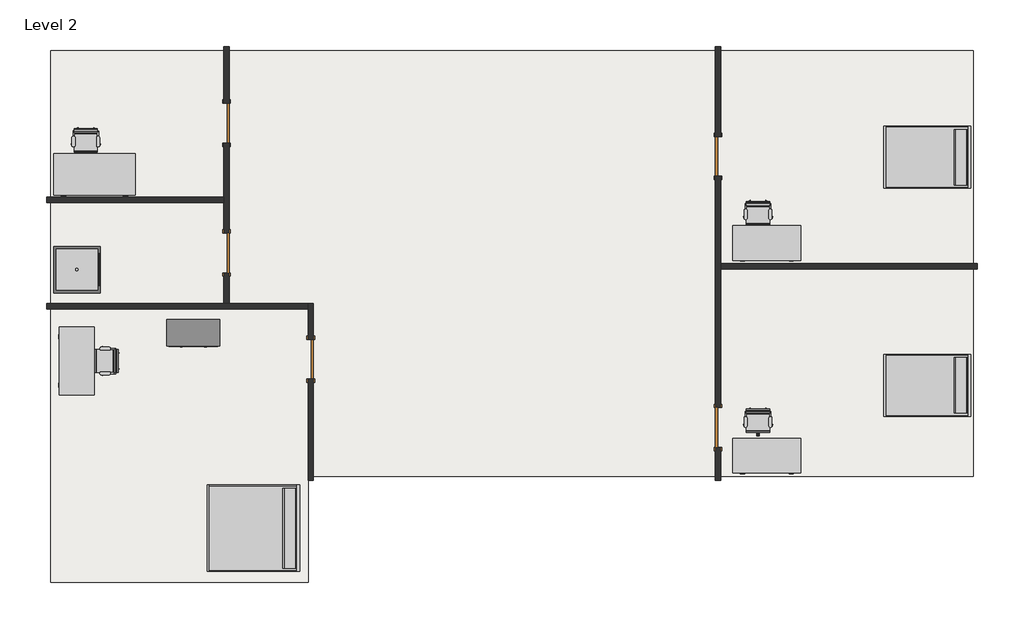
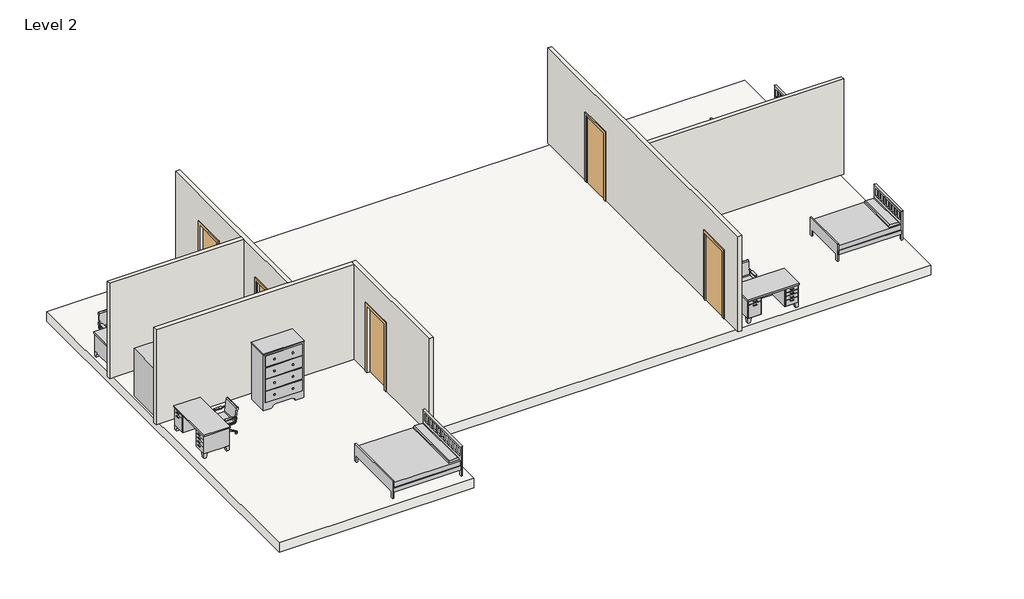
# One storey, incomplete: 12 furniture elements, 6 walls, 5 doors, 1 flow terminal, 1 slab.
"""IFC4 building model written with IfcOpenShell, lengths in millimetres."""

from ifc_helpers import new_model, si_unit, frame, origin, place, context, project, spatial, polyline, outline, extrude, faceted_brep, transform, mapped, element, save
from components import door_88503111, flow_terminal_00a5fde1, furniture_096e7f55, furniture_29cd36cd, chair_task_arms_chair_task_arms_fa5a08ef, furniture_013ab306, furniture_95783df2, furniture_9fa109b2

model = new_model("IFC4")

# Units and contexts
model_context = context("Model", 3, world=origin())
ifc_project = project(units=[si_unit("LENGTHUNIT", "METRE", prefix="MILLI")], contexts=[model_context])

# Site, building, storey
site = spatial("IfcSite", under=ifc_project)
building = spatial("IfcBuilding", under=site)
storey = spatial("IfcBuildingStorey", under=building, Name="Level 2", Elevation=3048.0)

# Doors
placement = place(None, origin())
door_shape = door_88503111(model_context)
element("IfcDoor", 1, ObjectType="Single-Flush : 36\" x 84\"", at=placement, inside=storey, context=model_context, shape_type="MappedRepresentation", body=[
    mapped(door_shape, transform((-10473.5848837, 11956.8240656, 3048.0), x_axis=(0.0, -1.0, 0.0), y_axis=(1.0, 0.0, 0.0), z_axis=(0.0, 0.0, 1.0))),
])
element("IfcDoor", 2, ObjectType="Single-Flush : 36\" x 84\"", at=placement, inside=storey, context=model_context, shape_type="MappedRepresentation", body=[
    mapped(door_shape, transform((-10473.5848837, 8979.4678156, 3048.0), x_axis=(0.0, -1.0, 0.0), y_axis=(1.0, 0.0, 0.0), z_axis=(0.0, 0.0, 1.0))),
])
element("IfcDoor", 3, ObjectType="Single-Flush : 36\" x 84\"", at=placement, inside=storey, context=model_context, shape_type="MappedRepresentation", body=[
    mapped(door_shape, transform((-8543.1848837, 6541.0678156, 3048.0), x_axis=(0.0, -1.0, 0.0), y_axis=(1.0, 0.0, 0.0), z_axis=(0.0, 0.0, 1.0))),
])
element("IfcDoor", 4, ObjectType="Single-Flush : 36\" x 84\"", at=placement, inside=storey, context=model_context, shape_type="MappedRepresentation", body=[
    mapped(door_shape, transform((792.9026163, 4977.3803156, 3048.0), x_axis=(0.0, 1.0, 0.0), y_axis=(-1.0, 0.0, 0.0), z_axis=(0.0, 0.0, 1.0))),
])
element("IfcDoor", 5, ObjectType="Single-Flush : 36\" x 84\"", at=placement, inside=storey, context=model_context, shape_type="MappedRepresentation", body=[
    mapped(door_shape, transform((792.9026163, 11194.8240656, 3048.0), x_axis=(0.0, 1.0, 0.0), y_axis=(-1.0, 0.0, 0.0), z_axis=(0.0, 0.0, 1.0))),
])

# Flow terminal
flow_terminal_shape = flow_terminal_00a5fde1(model_context)
element("IfcFlowTerminal", 6, ObjectType="Shower Stall - Rectangular : 42\"x42\" - Private", at=placement, inside=storey, context=model_context, shape_type="MappedRepresentation", body=[
    mapped(flow_terminal_shape, transform((-14435.9848837, 8065.0678156, 3048.0), x_axis=(1.0, 0.0, 0.0), y_axis=(0.0, 1.0, 0.0), z_axis=(0.0, 0.0, 1.0))),
])

# Furniture
furniture_shape = furniture_096e7f55(model_context)
element("IfcFurniture", 7, ObjectType="Bed-Shaker : Double 56\" x 78\"", at=placement, inside=storey, context=model_context, shape_type="MappedRepresentation", body=[
    mapped(furniture_shape, transform((6572.9901163, 11155.9303156, 3048.0), x_axis=(0.0, -1.0, 0.0), y_axis=(1.0, 0.0, 0.0), z_axis=(0.0, 0.0, 1.0))),
])
element("IfcFurniture", 8, ObjectType="Bed-Shaker : Double 56\" x 78\"", at=placement, inside=storey, context=model_context, shape_type="MappedRepresentation", body=[
    mapped(furniture_shape, transform((6572.9901163, 5923.5303156, 3048.0), x_axis=(0.0, -1.0, 0.0), y_axis=(1.0, 0.0, 0.0), z_axis=(0.0, 0.0, 1.0))),
])
furniture_2_shape = furniture_29cd36cd(model_context)
element("IfcFurniture", 9, ObjectType="Bed-Shaker : King 78\" x 83\"", at=placement, inside=storey, context=model_context, shape_type="MappedRepresentation", body=[
    mapped(furniture_2_shape, transform((-8808.2973837, 2646.9303156, 3048.0), x_axis=(0.0, -1.0, 0.0), y_axis=(1.0, 0.0, 0.0), z_axis=(0.0, 0.0, 1.0))),
])
chair_task_arms_chair_task_arms_shape = chair_task_arms_chair_task_arms_fa5a08ef(model_context)
element("IfcFurniture", 10, ObjectType="Chair-Task Arms : Chair-Task Arms", at=placement, inside=storey, context=model_context, shape_type="MappedRepresentation", body=[
    mapped(chair_task_arms_chair_task_arms_shape, transform((-13208.9514821, 6360.3894959, 3048.0), x_axis=(0.0, 1.0, 0.0), y_axis=(-1.0, 0.0, 0.0), z_axis=(0.0, 0.0, 1.0))),
])
element("IfcFurniture", 11, ObjectType="Chair-Task Arms : Chair-Task Arms", at=placement, inside=storey, context=model_context, shape_type="MappedRepresentation", body=[
    mapped(chair_task_arms_chair_task_arms_shape, transform((1848.293436, 9912.8137172, 3048.0), x_axis=(-1.0, 0.0, 0.0), y_axis=(0.0, -1.0, 0.0), z_axis=(0.0, 0.0, 1.0))),
])
element("IfcFurniture", 12, ObjectType="Chair-Task Arms : Chair-Task Arms", at=placement, inside=storey, context=model_context, shape_type="MappedRepresentation", body=[
    mapped(chair_task_arms_chair_task_arms_shape, transform((1848.293436, 5148.7262172, 3048.0), x_axis=(-1.0, 0.0, 0.0), y_axis=(0.0, -1.0, 0.0), z_axis=(0.0, 0.0, 1.0))),
])
element("IfcFurniture", 13, ObjectType="Chair-Task Arms : Chair-Task Arms", at=placement, inside=storey, context=model_context, shape_type="MappedRepresentation", body=[
    mapped(chair_task_arms_chair_task_arms_shape, transform((-13558.394064, 11582.1165491, 3048.0), x_axis=(-1.0, 0.0, 0.0), y_axis=(0.0, -1.0, 0.0), z_axis=(0.0, 0.0, 1.0))),
])
furniture_3_shape = furniture_013ab306(model_context)
element("IfcFurniture", 14, ObjectType="Desk : 60\" x 30\"", at=placement, inside=storey, context=model_context, shape_type="MappedRepresentation", body=[
    mapped(furniture_3_shape, transform((1148.5026163, 8827.0678156, 3048.0), x_axis=(1.0, 0.0, 0.0), y_axis=(0.0, 1.0, 0.0), z_axis=(0.0, 0.0, 1.0))),
])
element("IfcFurniture", 15, ObjectType="Desk : 60\" x 30\"", at=placement, inside=storey, context=model_context, shape_type="MappedRepresentation", body=[
    mapped(furniture_3_shape, transform((1148.5026163, 3950.2678156, 3048.0), x_axis=(1.0, 0.0, 0.0), y_axis=(0.0, 1.0, 0.0), z_axis=(0.0, 0.0, 1.0))),
])
element("IfcFurniture", 16, ObjectType="Desk : 60\" x 30\"", at=placement, inside=storey, context=model_context, shape_type="MappedRepresentation", body=[
    mapped(furniture_3_shape, transform((-14283.5848837, 7263.3803156, 3048.0), x_axis=(0.0, -1.0, 0.0), y_axis=(1.0, 0.0, 0.0), z_axis=(0.0, 0.0, 1.0))),
])
furniture_4_shape = furniture_95783df2(model_context)
element("IfcFurniture", 17, ObjectType="Desk : 72\" x 36\"", at=placement, inside=storey, context=model_context, shape_type="MappedRepresentation", body=[
    mapped(furniture_4_shape, transform((-14258.1848837, 10398.6928156, 3048.0), x_axis=(1.0, 0.0, 0.0), y_axis=(0.0, 1.0, 0.0), z_axis=(0.0, 0.0, 1.0))),
])
furniture_5_shape = furniture_9fa109b2(model_context)
element("IfcFurniture", 18, ObjectType="Dresser : 48\" x 72\" x 24\"", at=placement, inside=storey, context=model_context, shape_type="MappedRepresentation", body=[
    mapped(furniture_5_shape, transform((-10966.3916239, 7513.8307697, 3048.0), x_axis=(1.0, 0.0, 0.0), y_axis=(0.0, 1.0, 0.0), z_axis=(0.0, 0.0, 1.0))),
])

# Slab
element("IfcSlab", 19, ObjectType="Generic - 12\"", at=placement, inside=storey, context=model_context, shape_type="SweptSolid", body=[
    extrude(outline(polyline([(-14497.8973837, 1421.3803156), (-14497.8973837, 13613.3803156), (6634.9026163, 13613.3803156), (6634.9026163, 3859.7803156), (-8605.0973837, 3859.7803156), (-8605.0973837, 1421.3803156), (-14497.8973837, 1421.3803156)])), frame((0.0, 0.0, 2743.2), z_axis=(0.0, 0.0, 1.0), x_axis=(1.0, 0.0, 0.0)), (0.0, 0.0, 1.0), 304.8),
])

# Walls
element("IfcWall", 20, ObjectType="Interior - 4 7/8\" Partition (1-hr)", at=placement, inside=storey, context=model_context, shape_type="Brep", body=[
    faceted_brep([(-8481.2723837, 3758.1803156, 3048.0), (-8481.2723837, 6083.8678156, 3048.0), (-8481.2723837, 6083.8678156, 5181.6), (-8481.2723837, 6998.2678156, 5181.6), (-8481.2723837, 6998.2678156, 3048.0), (-8481.2723837, 7822.1803156, 3048.0), (-8481.2723837, 7822.1803156, 6096.0), (-8481.2723837, 3758.1803156, 6096.0), (-8605.0973837, 6083.8678156, 5181.6), (-8605.0973837, 6083.8678156, 3048.0), (-8605.0973837, 3758.1803156, 3048.0), (-8605.0973837, 3758.1803156, 6096.0), (-8605.0973837, 7698.3553156, 6096.0), (-8605.0973837, 7822.1803156, 6096.0), (-8605.0973837, 7822.1803156, 3048.0), (-8605.0973837, 7698.3553156, 3048.0), (-8605.0973837, 6998.2678156, 3048.0), (-8605.0973837, 6998.2678156, 5181.6)], [[[0, 1, 2, 3, 4, 5, 6, 7]], [[8, 9, 10, 11, 12, 13, 14, 15, 16, 17]], [[10, 9, 1, 0]], [[16, 15, 14, 5, 4]], [[7, 6, 13, 12, 11]], [[0, 7, 11, 10]], [[6, 5, 14, 13]], [[2, 1, 9, 8]], [[3, 2, 8, 17]], [[4, 3, 17, 16]]]),
])
element("IfcWall", 21, ObjectType="Interior - 4 7/8\" Partition (1-hr)", at=placement, inside=storey, context=model_context, shape_type="Brep", body=[
    faceted_brep([(-8605.0973837, 7822.1803156, 3048.0), (-10411.6723837, 7822.1803156, 3048.0), (-10535.4973837, 7822.1803156, 3048.0), (-14599.4973837, 7822.1803156, 3048.0), (-14599.4973837, 7822.1803156, 6096.0), (-10535.4973837, 7822.1803156, 6096.0), (-10411.6723837, 7822.1803156, 6096.0), (-8605.0973837, 7822.1803156, 6096.0), (-8605.0973837, 7698.3553156, 3048.0), (-8605.0973837, 7698.3553156, 6096.0), (-14599.4973837, 7698.3553156, 6096.0), (-14599.4973837, 7698.3553156, 3048.0)], [[[0, 1, 2, 3, 4, 5, 6, 7]], [[8, 9, 10, 11]], [[3, 2, 1, 0, 8, 11]], [[4, 3, 11, 10]], [[7, 6, 5, 4, 10, 9]], [[0, 7, 9, 8]]]),
])
element("IfcWall", 22, ObjectType="Interior - 4 7/8\" Partition (1-hr)", at=placement, inside=storey, context=model_context, shape_type="Brep", body=[
    faceted_brep([(-10535.4973837, 8522.2678156, 5181.6), (-10535.4973837, 8522.2678156, 3048.0), (-10535.4973837, 7822.1803156, 3048.0), (-10535.4973837, 7822.1803156, 6096.0), (-10535.4973837, 10136.7553156, 6096.0), (-10535.4973837, 10260.5803156, 6096.0), (-10535.4973837, 13714.9803156, 6096.0), (-10535.4973837, 13714.9803156, 3048.0), (-10535.4973837, 12414.0240656, 3048.0), (-10535.4973837, 12414.0240656, 5181.6), (-10535.4973837, 11499.6240656, 5181.6), (-10535.4973837, 11499.6240656, 3048.0), (-10535.4973837, 10260.5803156, 3048.0), (-10535.4973837, 10136.7553156, 3048.0), (-10535.4973837, 9436.6678156, 3048.0), (-10535.4973837, 9436.6678156, 5181.6), (-10411.6723837, 7822.1803156, 3048.0), (-10411.6723837, 8522.2678156, 3048.0), (-10411.6723837, 8522.2678156, 5181.6), (-10411.6723837, 9436.6678156, 5181.6), (-10411.6723837, 9436.6678156, 3048.0), (-10411.6723837, 11499.6240656, 3048.0), (-10411.6723837, 11499.6240656, 5181.6), (-10411.6723837, 12414.0240656, 5181.6), (-10411.6723837, 12414.0240656, 3048.0), (-10411.6723837, 13714.9803156, 3048.0), (-10411.6723837, 13714.9803156, 6096.0), (-10411.6723837, 7822.1803156, 6096.0)], [[[0, 1, 2, 3, 4, 5, 6, 7, 8, 9, 10, 11, 12, 13, 14, 15]], [[16, 17, 18, 19, 20, 21, 22, 23, 24, 25, 26, 27]], [[8, 7, 25, 24]], [[2, 1, 17, 16]], [[14, 13, 12, 11, 21, 20]], [[6, 5, 4, 3, 27, 26]], [[7, 6, 26, 25]], [[3, 2, 16, 27]], [[22, 21, 11, 10]], [[23, 22, 10, 9]], [[24, 23, 9, 8]], [[18, 17, 1, 0]], [[19, 18, 0, 15]], [[20, 19, 15, 14]]]),
])
element("IfcWall", 23, ObjectType="Interior - 4 7/8\" Partition (1-hr)", at=placement, inside=storey, context=model_context, shape_type="SweptSolid", body=[
    extrude(outline(polyline([(-10535.4973837, 10136.7553156), (-14599.4973837, 10136.7553156), (-14599.4973837, 10260.5803156), (-10535.4973837, 10260.5803156), (-10535.4973837, 10136.7553156)])), frame((0.0, 0.0, 3048.0), z_axis=(0.0, 0.0, 1.0), x_axis=(1.0, 0.0, 0.0)), (0.0, 0.0, 1.0), 3048.0),
])
element("IfcWall", 24, ObjectType="Interior - 4 7/8\" Partition (1-hr)", at=placement, inside=storey, context=model_context, shape_type="Brep", body=[
    faceted_brep([(854.8151163, 11652.0240656, 5181.6), (854.8151163, 11652.0240656, 3048.0), (854.8151163, 13714.9803156, 3048.0), (854.8151163, 13714.9803156, 6096.0), (854.8151163, 8736.5803156, 6096.0), (854.8151163, 8612.7553156, 6096.0), (854.8151163, 3758.1803156, 6096.0), (854.8151163, 3758.1803156, 3048.0), (854.8151163, 4520.1803156, 3048.0), (854.8151163, 4520.1803156, 5181.6), (854.8151163, 5434.5803156, 5181.6), (854.8151163, 5434.5803156, 3048.0), (854.8151163, 8612.7553156, 3048.0), (854.8151163, 8736.5803156, 3048.0), (854.8151163, 10737.6240656, 3048.0), (854.8151163, 10737.6240656, 5181.6), (730.9901163, 13714.9803156, 3048.0), (730.9901163, 11652.0240656, 3048.0), (730.9901163, 11652.0240656, 5181.6), (730.9901163, 10737.6240656, 5181.6), (730.9901163, 10737.6240656, 3048.0), (730.9901163, 5434.5803156, 3048.0), (730.9901163, 5434.5803156, 5181.6), (730.9901163, 4520.1803156, 5181.6), (730.9901163, 4520.1803156, 3048.0), (730.9901163, 3758.1803156, 3048.0), (730.9901163, 3758.1803156, 6096.0), (730.9901163, 13714.9803156, 6096.0)], [[[0, 1, 2, 3, 4, 5, 6, 7, 8, 9, 10, 11, 12, 13, 14, 15]], [[16, 17, 18, 19, 20, 21, 22, 23, 24, 25, 26, 27]], [[8, 7, 25, 24]], [[2, 1, 17, 16]], [[14, 13, 12, 11, 21, 20]], [[3, 2, 16, 27]], [[6, 5, 4, 3, 27, 26]], [[7, 6, 26, 25]], [[22, 21, 11, 10]], [[23, 22, 10, 9]], [[24, 23, 9, 8]], [[18, 17, 1, 0]], [[19, 18, 0, 15]], [[20, 19, 15, 14]]]),
])
element("IfcWall", 25, ObjectType="Interior - 4 7/8\" Partition (1-hr)", at=placement, inside=storey, context=model_context, shape_type="SweptSolid", body=[
    extrude(outline(polyline([(6736.5026163, 8612.7553156), (854.8151163, 8612.7553156), (854.8151163, 8736.5803156), (6736.5026163, 8736.5803156), (6736.5026163, 8612.7553156)])), frame((0.0, 0.0, 3048.0), z_axis=(0.0, 0.0, 1.0), x_axis=(1.0, 0.0, 0.0)), (0.0, 0.0, 1.0), 3048.0),
])

save(model, "model.ifc")
